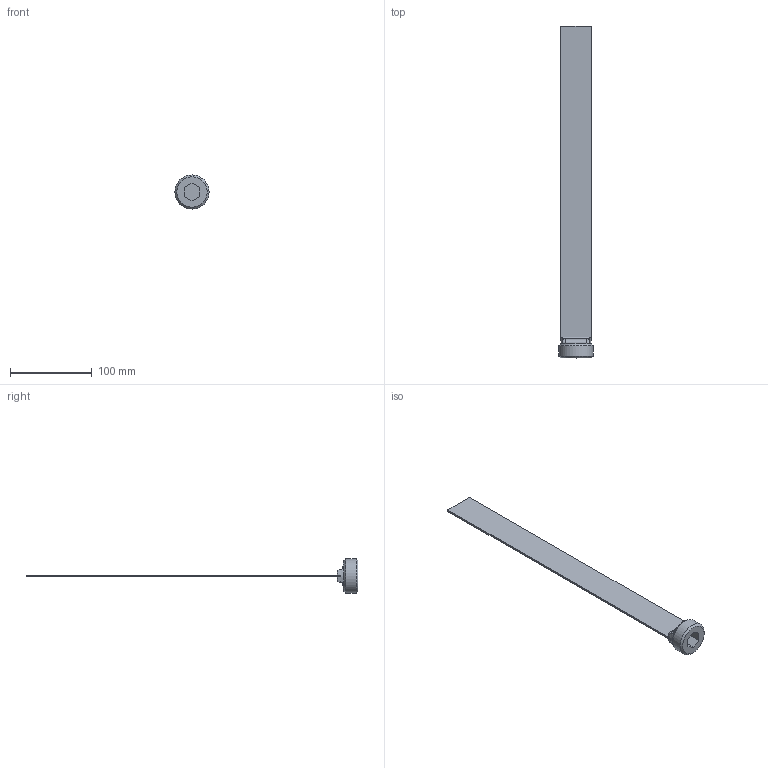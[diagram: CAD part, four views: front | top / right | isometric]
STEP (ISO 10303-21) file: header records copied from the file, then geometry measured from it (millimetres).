
FILE_DESCRIPTION(/* description */ (''),/* implementation_level */ '2;1');
FILE_NAME(/* name */ 'C:/Users/drich/Desktop/SB114X16 v1.step',/* time_stamp */ '2019-12-29T15:56:05-06:00',/* author */ (''),/* organization */ (''),/* preprocessor_version */ 'ST-DEVELOPER v18',/* originating_system */ 'Autodesk Translation Framework v8.12.0.6',/* authorisation */ '');
FILE_SCHEMA (('AUTOMOTIVE_DESIGN { 1 0 10303 214 3 1 1 }'));
Length unit declared in the file: inch
Products named in the file (1): SB114X16
Bounding box: 41.73 x 406.4 x 41.73 mm (x, y, z)
Volume: 56678.7 mm3; surface area: 36698.6 mm2
Topology: 1 solids, 1 shells, 40 faces, 106 edges, 69 vertices
Faces by surface type: plane 19, cylinder 8, torus 7, bspline 4, cone 2
Full cylindrical faces by diameter (mm): 36.474 x1, 41.73 x1
Entity records: 1611 total; most frequent: CARTESIAN_POINT 603, ORIENTED_EDGE 212, DIRECTION 188, EDGE_CURVE 106, VERTEX_POINT 69, AXIS2_PLACEMENT_3D 69, LINE 50, VECTOR 50
